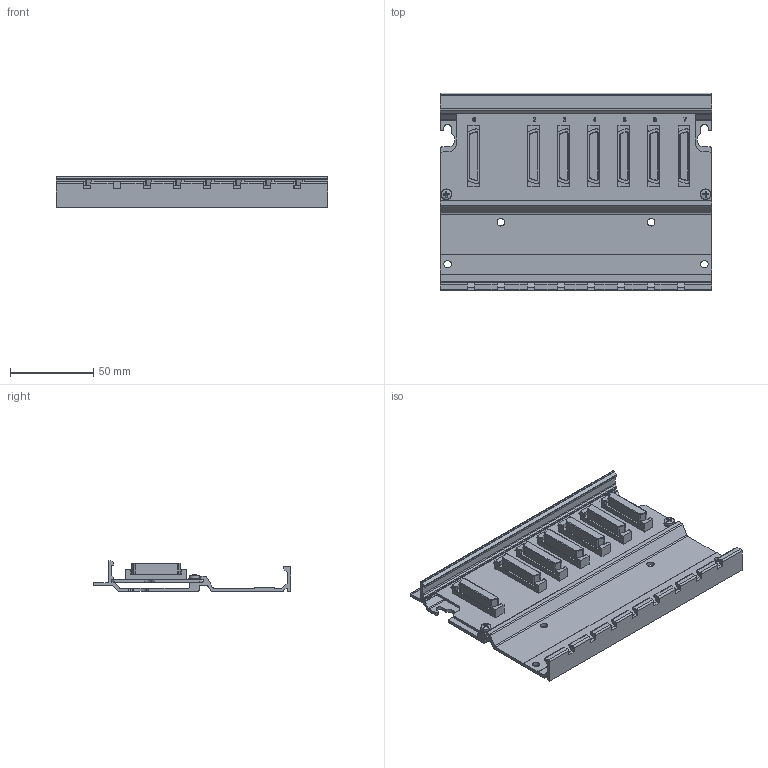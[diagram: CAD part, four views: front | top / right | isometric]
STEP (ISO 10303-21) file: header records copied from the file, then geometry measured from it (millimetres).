
FILE_DESCRIPTION (( 'STEP AP214' ), '1' );
FILE_NAME ('NX9010.STEP', '2015-07-02T19:35:57', ( 'ALTUS' ), ( '' ), 'SwSTEP 2.0', 'SolidWorks 2011', '' );
FILE_SCHEMA (( 'AUTOMOTIVE_DESIGN' ));
Length unit declared in the file: millimetre
Products named in the file (1): NX9010
Bounding box: 163.7 x 119 x 18.6 mm (x, y, z)
Volume: 82578.3 mm3; surface area: 73908.3 mm2
Topology: 1 solids, 3 shells, 1156 faces, 3024 edges, 1988 vertices
Faces by surface type: plane 796, cylinder 216, bspline 114, torus 28, sphere 2
Entity records: 52082 total; most frequent: CARTESIAN_POINT 11387, ORIENTED_EDGE 6040, DIRECTION 5274, EDGE_CURVE 3020, LINE 2152, VECTOR 2152, VERTEX_POINT 1986, AXIS2_PLACEMENT_3D 1561
